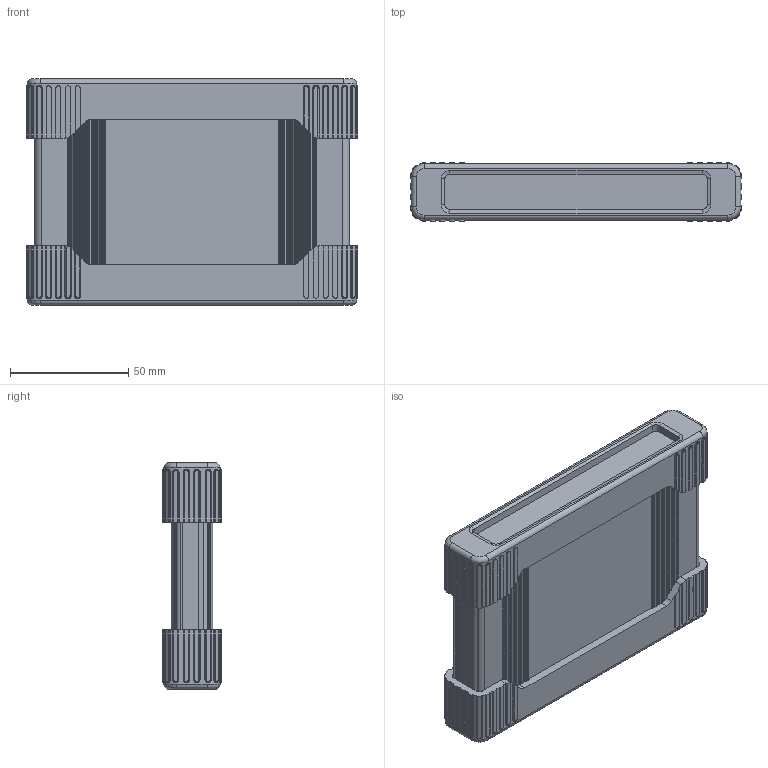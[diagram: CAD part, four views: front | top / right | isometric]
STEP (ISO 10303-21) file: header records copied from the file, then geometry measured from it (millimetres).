
FILE_DESCRIPTION (( 'STEP AP214' ), '1' );
FILE_NAME ('B5S-080 Assembly.STEP', '2019-10-07T22:02:34', ( 'Rudy' ), ( '' ), 'SwSTEP 2.0', 'SolidWorks 2014', '' );
FILE_SCHEMA (( 'AUTOMOTIVE_DESIGN' ));
Length unit declared in the file: inch
Products named in the file (8): B5 End cap; Screw assembly; SEALING WASHER; Torx Screw M3X0.5; SK-5-S-Seal Kit; B5-S-End Plate; B5S-080 Enclosure; B5S-080 Assembly
Assembly tree (17 placements, depth 3):
  B5S-080 Assembly
    B5S-080 Enclosure
    B5-S-End Plate  x2
    SK-5-S-Seal Kit  x2
    Screw assembly  x8
      Torx Screw M3X0.5
      SEALING WASHER
    B5 End cap  x2
Bounding box: 140.2 x 24.71 x 95.6 mm (x, y, z)
Volume: 108361.9 mm3; surface area: 101087 mm2
Topology: 23 solids, 23 shells, 1469 faces, 3861 edges, 2470 vertices
Faces by surface type: cylinder 633, plane 404, cone 184, bspline 128, torus 120
Entity records: 26084 total; most frequent: CARTESIAN_POINT 6223, DIRECTION 4137, ORIENTED_EDGE 4020, EDGE_CURVE 2010, AXIS2_PLACEMENT_3D 1555, VERTEX_POINT 1297, VECTOR 1027, LINE 1027
